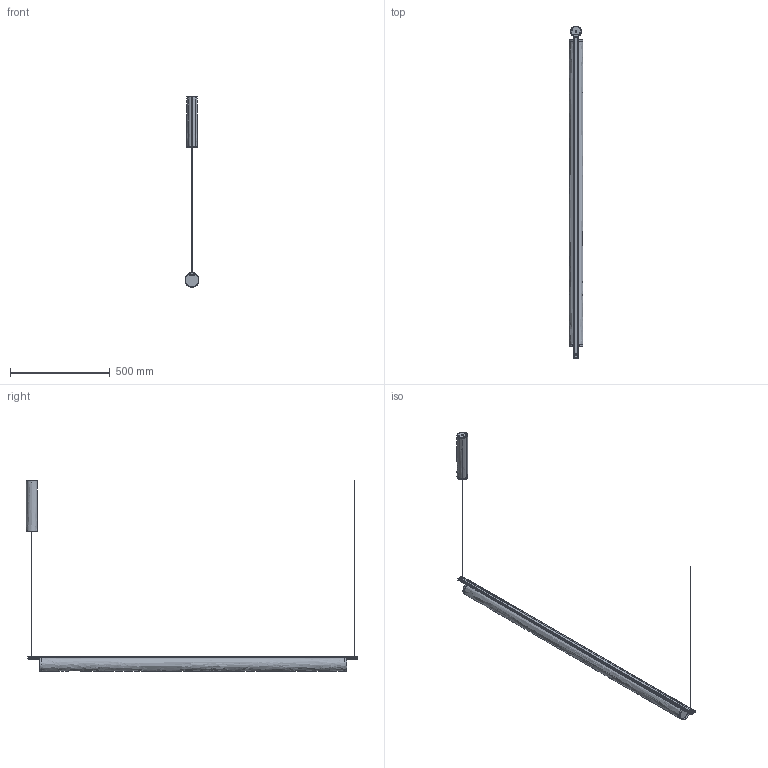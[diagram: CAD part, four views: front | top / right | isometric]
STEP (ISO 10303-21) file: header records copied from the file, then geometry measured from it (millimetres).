
FILE_DESCRIPTION(/* description */ (''),/* implementation_level */ '2;1');
FILE_NAME(/* name */ 'L160__165.0501',/* time_stamp */ '2025-05-26T15:35:19+02:00',/* author */ (''),/* organization */ (''),/* preprocessor_version */ 'ST-DEVELOPER v16.5',/* originating_system */ '',/* authorisation */ '');
FILE_SCHEMA (('AUTOMOTIVE_DESIGN'));
Length unit declared in the file: millimetre
Products named in the file (7): Document; 3200.0913000.00 (staffa rosone ACC 49x41,1mm H 248mm sp 1,2 con testa
ta di chiusura)_3210.0913000.00; 3200.0912000.00 (staffa rosone ACC 49x41,1mm H 248mm sp 1,2)_3209.091
2000.00; 3200.0021000.00 (testata rosone ACC D 50,7mm sp 1,2)_3201.0021000.00; 3300.0250000.00 (tubo rosone ALL D 55mm sp 2)_3306.0250025.00; 5205.0001010.00 (raccordo fresato OTTONE D 12mm sp 3 gambo H 10mm M10
x1 Sacla 13501)_5205.0001010.00; 4504.0004000.00 (passacavo D int. 5,9mm L 10,5mm Steab 5101)_4504.000
4000.00
Assembly tree (6 placements, depth 3):
  Document
    3200.0913000.00 (staffa rosone ACC 49x41,1mm H 248mm sp 1,2 con testa
ta di chiusura)_3210.0913000.00
      3200.0912000.00 (staffa rosone ACC 49x41,1mm H 248mm sp 1,2)_3209.091
2000.00
      3200.0021000.00 (testata rosone ACC D 50,7mm sp 1,2)_3201.0021000.00
    3300.0250000.00 (tubo rosone ALL D 55mm sp 2)_3306.0250025.00
    5205.0001010.00 (raccordo fresato OTTONE D 12mm sp 3 gambo H 10mm M10
x1 Sacla 13501)_5205.0001010.00
    4504.0004000.00 (passacavo D int. 5,9mm L 10,5mm Steab 5101)_4504.000
4000.00
Bounding box: 70 x 1661.5 x 953.88 mm (x, y, z)
Volume: 612270.8 mm3; surface area: 1027789.4 mm2
Topology: 11 solids, 11 shells, 594 faces, 1581 edges, 1006 vertices
Faces by surface type: bspline 353, plane 241
Entity records: 44651 total; most frequent: CARTESIAN_POINT 35087, ORIENTED_EDGE 3162, EDGE_CURVE 1581, VERTEX_POINT 1006, B_SPLINE_CURVE_WITH_KNOTS 962, EDGE_LOOP 643, ADVANCED_FACE 594, FACE_OUTER_BOUND 594
